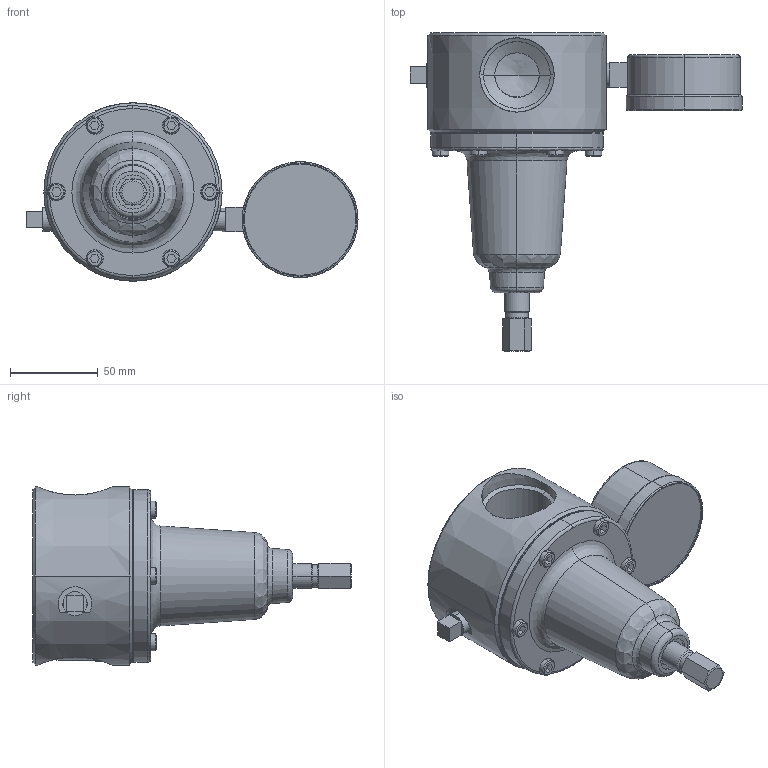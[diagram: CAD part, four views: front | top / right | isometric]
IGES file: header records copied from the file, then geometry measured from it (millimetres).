
Start section:  PTC IGES file: 208997-en-u.igs
Global section: file name: 208997-en-u.igs; native system: Creo Parametric by PTC Inc.; preprocessor: 2019030; author: qusrh3; organization: Unknown; date: 20200716.085433; units: inch
Bounding box: 189.23 x 181.6 x 101.6 mm (x, y, z)
Surface area: 112665.9 mm2 (no closed solid volume)
Topology: 0 solids, 0 shells, 234 faces, 1146 edges, 1142 vertices
Faces by surface type: revolution 132, bspline 102
